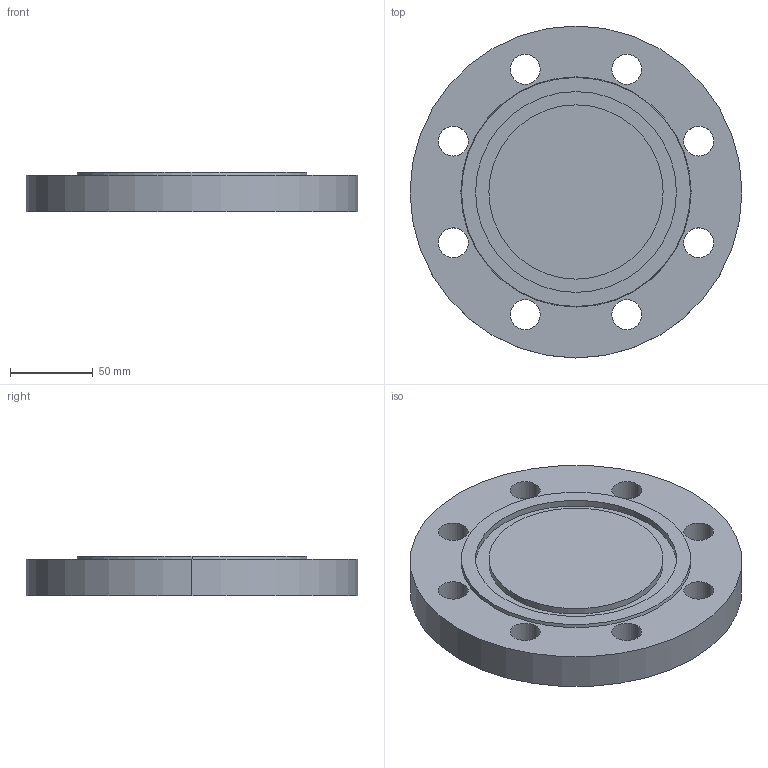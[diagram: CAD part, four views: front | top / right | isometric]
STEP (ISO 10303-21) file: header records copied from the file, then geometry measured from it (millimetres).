
FILE_DESCRIPTION (( 'STEP AP214' ), '1' );
FILE_NAME ('PN40 DN80 Type 05 - Type D Face.STEP', '2019-01-01T19:44:39', ( '' ), ( '' ), 'SwSTEP 2.0', 'SolidWorks 2019', '' );
FILE_SCHEMA (( 'AUTOMOTIVE_DESIGN' ));
Length unit declared in the file: millimetre
Products named in the file (1): PN40 DN80 Type 05 - Type D Face
Bounding box: 200 x 200 x 24 mm (x, y, z)
Volume: 665071.2 mm3; surface area: 86105.3 mm2
Topology: 1 solids, 1 shells, 29 faces, 72 edges, 48 vertices
Faces by surface type: cylinder 22, plane 5, cone 2
Entity records: 960 total; most frequent: DIRECTION 180, CARTESIAN_POINT 150, ORIENTED_EDGE 144, AXIS2_PLACEMENT_3D 78, EDGE_CURVE 72, CIRCLE 48, VERTEX_POINT 48, EDGE_LOOP 48
